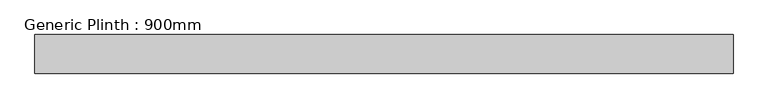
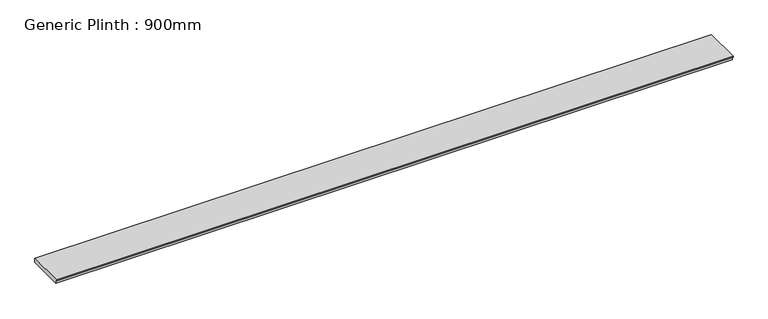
"""IFC4 building model written with IfcOpenShell, lengths in millimetres: furniture geometry, Generic Plinth : 900mm."""

import ifcopenshell
import ifcopenshell.guid

model = None  # the IFC model being written
_history = None  # IfcOwnerHistory: only IFC2X3 demands one
_inside = {}  # id of a spatial element -> (the spatial element, [elements in it])
_under = {}  # id of a project, library or spatial element -> (it, [spatial elements below it])
_declared = {}  # id of a project -> (the project, [libraries it declares])
_typed = {}  # id of a type object -> (the type object, [elements of that type])
_made_of = {}  # id of a material, layer set ... -> (it, [elements and type objects made of it])


def new_model(schema):
    """Start an empty IFC model of exactly this schema.

    Asked for "IFC4X3", IfcOpenShell would pick the latest addendum, in which some entities
    have other attributes; the version numbers below select the first issue.
    IFC2X3 requires an IfcOwnerHistory on every rooted entity: one is made here for all.
    """
    global model, _history
    if schema == "IFC4X3":
        model = ifcopenshell.file(schema_version=(4, 3, 0, 0))
    else:
        model = ifcopenshell.file(schema=schema)
    _inside.clear()
    _under.clear()
    _declared.clear()
    _typed.clear()
    _made_of.clear()
    _history = None
    if model.schema == "IFC2X3":
        org = make("IfcOrganization", Name="unknown")
        user = make(
            "IfcPersonAndOrganization",
            ThePerson=make("IfcPerson", FamilyName="unknown"),
            TheOrganization=org,
        )
        app = make(
            "IfcApplication",
            ApplicationDeveloper=org,
            Version="unknown",
            ApplicationFullName="unknown",
            ApplicationIdentifier="unknown",
        )
        _history = make(
            "IfcOwnerHistory",
            OwningUser=user,
            OwningApplication=app,
            ChangeAction="ADDED",
            CreationDate=0,
        )
    return model


def make(cls, **values):
    """One entity of the class cls with the attributes given. An attribute that is None is left unset."""
    return model.create_entity(
        cls, **{name: value for name, value in values.items() if value is not None}
    )


def rooted(cls, **values):
    """An entity with a GlobalId (a new one), such as an element, a storey or a relation."""
    return make(cls, GlobalId=ifcopenshell.guid.new(), OwnerHistory=_history, **values)


def si_unit(unit_type, name, prefix=None):
    """IfcSIUnit, for example si_unit("LENGTHUNIT", "METRE", prefix="MILLI")."""
    return make("IfcSIUnit", UnitType=unit_type, Prefix=prefix, Name=name)


def assignment(units):
    """IfcUnitAssignment: the units of a project."""
    return None if units is None else make("IfcUnitAssignment", Units=units)


def point(xyz):
    """IfcCartesianPoint."""
    return None if xyz is None else make("IfcCartesianPoint", Coordinates=xyz)


def direction(xyz):
    """IfcDirection."""
    return None if xyz is None else make("IfcDirection", DirectionRatios=xyz)


def frame(location, z_axis=None, x_axis=None):
    """IfcAxis2Placement3D, a coordinate frame: its origin and axes. An axis left out is left unset."""
    return make(
        "IfcAxis2Placement3D",
        Location=point(location),
        Axis=direction(z_axis),
        RefDirection=direction(x_axis),
    )


def origin():
    """The frame at (0, 0, 0) with its axes left unset."""
    return frame((0.0, 0.0, 0.0))


def place(relative_to, where):
    """IfcLocalPlacement: puts the frame where relative to a parent placement (None: the world)."""
    return make(
        "IfcLocalPlacement", PlacementRelTo=relative_to, RelativePlacement=where
    )


def context(
    kind, dimensions, precision=None, world=None, true_north=None, identifier=None
):
    """IfcGeometricRepresentationContext, for example the 3D "Model" context."""
    return make(
        "IfcGeometricRepresentationContext",
        ContextIdentifier=identifier,
        ContextType=kind,
        CoordinateSpaceDimension=dimensions,
        Precision=precision,
        WorldCoordinateSystem=world,
        TrueNorth=true_north,
    )


def project(units=None, contexts=None):
    """IfcProject with its units and contexts."""
    return rooted(
        "IfcProject",
        Name="project",
        RepresentationContexts=contexts,
        UnitsInContext=assignment(units),
    )


def spatial(cls, under=None, at=None, **own):
    """A site, building, storey or space (cls), placed at a placement, below another one or the project."""
    s = rooted(cls, ObjectPlacement=at, **own)
    if under is not None:
        _under.setdefault(under.id(), (under, []))[1].append(s)
    return s


def polyline(points):
    """IfcPolyline through the points."""
    return make("IfcPolyline", Points=[point(p) for p in points])


def outline(outer, holes=None, kind="AREA"):
    """IfcArbitraryClosedProfileDef: a profile drawn as a closed curve; with holes, ...WithVoids."""
    if holes is None:
        return make("IfcArbitraryClosedProfileDef", ProfileType=kind, OuterCurve=outer)
    return make(
        "IfcArbitraryProfileDefWithVoids",
        ProfileType=kind,
        OuterCurve=outer,
        InnerCurves=holes,
    )


def extrude(swept, where, along, depth):
    """IfcExtrudedAreaSolid: the profile swept, set in the frame where, extruded along a direction by depth."""
    return make(
        "IfcExtrudedAreaSolid",
        SweptArea=swept,
        Position=where,
        ExtrudedDirection=direction(along),
        Depth=depth,
    )


def shape(context_of_items, identifier, shape_type, items):
    """IfcShapeRepresentation: the items that make up one representation, for example the "Body"."""
    return make(
        "IfcShapeRepresentation",
        ContextOfItems=context_of_items,
        RepresentationIdentifier=identifier,
        RepresentationType=shape_type,
        Items=items,
    )


def source(mapping_origin, context_of_items, identifier, shape_type, items):
    """IfcRepresentationMap: a shape defined once, which mapped items show again and again."""
    return make(
        "IfcRepresentationMap",
        MappingOrigin=mapping_origin,
        MappedRepresentation=shape(context_of_items, identifier, shape_type, items),
    )


def transform(
    local_origin,
    x_axis=None,
    y_axis=None,
    z_axis=None,
    scale=None,
    scale2=None,
    scale3=None,
    uniform=True,
):
    """IfcCartesianTransformationOperator3D, or its non-uniform kind. x_axis, y_axis, z_axis: its Axis1, 2, 3."""
    if uniform:
        return make(
            "IfcCartesianTransformationOperator3D",
            Axis1=direction(x_axis),
            Axis2=direction(y_axis),
            LocalOrigin=point(local_origin),
            Scale=scale,
            Axis3=direction(z_axis),
        )
    return make(
        "IfcCartesianTransformationOperator3DnonUniform",
        Axis1=direction(x_axis),
        Axis2=direction(y_axis),
        LocalOrigin=point(local_origin),
        Scale=scale,
        Axis3=direction(z_axis),
        Scale2=scale2,
        Scale3=scale3,
    )


def mapped(mapping_source, mapping_target):
    """IfcMappedItem: shows the shape of a source again, moved by a transform."""
    return make(
        "IfcMappedItem", MappingSource=mapping_source, MappingTarget=mapping_target
    )


def made_of(thing, what):
    """Note that an element or type object is made of a material, layer set ...; save() writes the relation."""
    if what is not None:
        _made_of.setdefault(what.id(), (what, []))[1].append(thing)
    return thing


def element(
    cls,
    number,
    at=None,
    inside=None,
    cuts=None,
    type_object=None,
    material=None,
    context=None,
    identifier="Body",
    shape_type=None,
    held_by="IfcProductDefinitionShape",
    body=None,
    shapes=None,
    **own,
):
    """One element of the class cls, such as IfcWall. Its Tag is "e" and its number.

    at: its placement. inside: the storey or other place that contains it. cuts: it is an
    opening in that element (IfcRelVoidsElement). A single representation is given by context,
    identifier, shape_type and body (its items); several are given by shapes. held_by: the class
    of the entity that holds the representations. save() writes the other relations.
    """
    e = rooted(cls, Tag="e%d" % number, ObjectPlacement=at, **own)
    if body is not None:
        shapes = [shape(context, identifier, shape_type, body)]
    if shapes is not None:
        e.Representation = make(held_by, Representations=shapes)
    if inside is not None:
        _inside.setdefault(inside.id(), (inside, []))[1].append(e)
    if cuts is not None:
        rooted(
            "IfcRelVoidsElement", RelatingBuildingElement=cuts, RelatedOpeningElement=e
        )
    if type_object is not None:
        _typed.setdefault(type_object.id(), (type_object, []))[1].append(e)
    return made_of(e, material)


def aggregate(whole, parts):
    """IfcRelAggregates: a whole, such as a stair, and the parts it consists of."""
    return rooted("IfcRelAggregates", RelatingObject=whole, RelatedObjects=parts)


def save(model, path):
    """Write the relations noted so far, then the file.

    IfcRelAggregates (storeys below a building ...), IfcRelContainedInSpatialStructure (elements
    in a storey), IfcRelDefinesByType, IfcRelAssociatesMaterial and IfcRelDeclares: one each for
    every whole, place, type object, material and project.
    """
    for whole, parts in _under.values():
        aggregate(whole, parts)
    for where, things in _inside.values():
        rooted(
            "IfcRelContainedInSpatialStructure",
            RelatedElements=things,
            RelatingStructure=where,
        )
    for kind, things in _typed.values():
        rooted("IfcRelDefinesByType", RelatedObjects=things, RelatingType=kind)
    for what, things in _made_of.values():
        rooted("IfcRelAssociatesMaterial", RelatedObjects=things, RelatingMaterial=what)
    for by, libraries in _declared.values():
        rooted("IfcRelDeclares", RelatingContext=by, RelatedDefinitions=libraries)
    model.write(path)


def generic_plinth_900mm_fa4a643e(model_context):
    return source(origin(), model_context, "Body", "SweptSolid", [
        extrude(outline(polyline([(-900.0, 81.0), (-900.0, 100.0), (0.0, 100.0), (0.0, 0.0), (-865.0, 0.0), (-865.0, 81.0), (-900.0, 81.0)])), frame((-8106.2622951, 0.0, 0.0), z_axis=(1.0, 0.0, 0.0), x_axis=(0.0, 1.0, 0.0)), (0.0, 0.0, 1.0), 16250.0),
    ])


if __name__ == "__main__":
    model = new_model("IFC4")
    model_context = context("Model", 3, world=origin())
    ifc_project = project(units=[si_unit("LENGTHUNIT", "METRE", prefix="MILLI")], contexts=[model_context])
    site = spatial("IfcSite", under=ifc_project)
    building = spatial("IfcBuilding", under=site)
    placement = place(None, origin())
    generic_plinth_900mm_shape = generic_plinth_900mm_fa4a643e(model_context)
    element("IfcFurniture", 1, ObjectType="Generic Plinth : 900mm", at=placement, inside=building, context=model_context, shape_type="MappedRepresentation", body=[
        mapped(generic_plinth_900mm_shape, transform((0.0, 0.0, 0.0), x_axis=(1.0, 0.0, 0.0), y_axis=(0.0, 1.0, 0.0), z_axis=(0.0, 0.0, 1.0))),
    ])
    save(model, "model.ifc")
